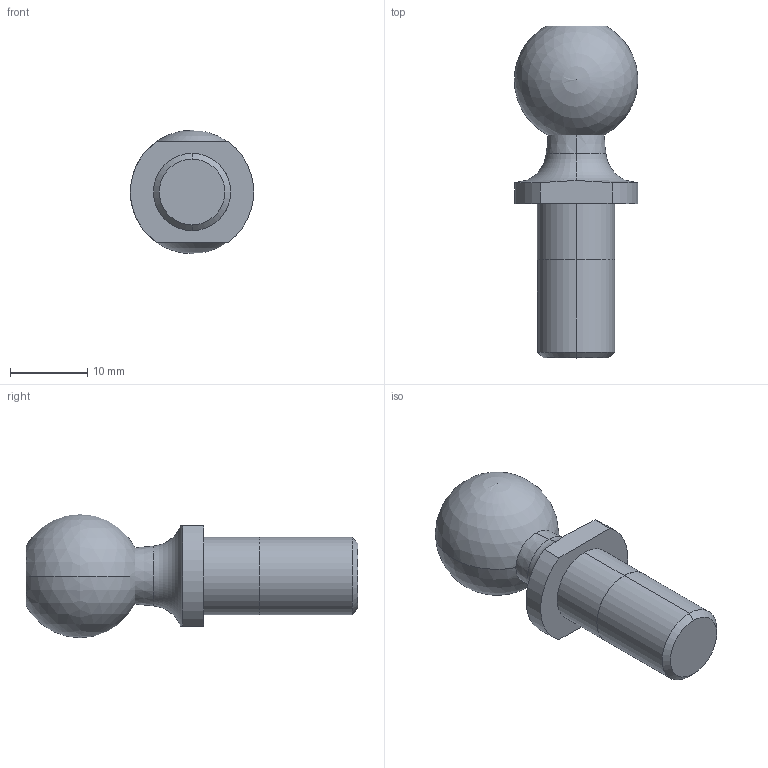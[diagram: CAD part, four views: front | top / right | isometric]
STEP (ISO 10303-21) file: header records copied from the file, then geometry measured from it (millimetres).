
FILE_DESCRIPTION (( 'STEP AP203' ), '1' );
FILE_NAME ('Default.step', '2014-02-03T10:40:23', ( 'User' ), ( '' ), 'SwSTEP 2.0', 'SolidWorks 2009', '' );
FILE_SCHEMA (( 'CONFIG_CONTROL_DESIGN' ));
Length unit declared in the file: millimetre
Products named in the file (1): Default
Bounding box: 15.98 x 43 x 16 mm (x, y, z)
Volume: 4550.1 mm3; surface area: 1935.9 mm2
Topology: 1 solids, 1 shells, 20 faces, 49 edges, 31 vertices
Faces by surface type: cylinder 6, plane 6, cone 4, sphere 2, torus 2
Entity records: 671 total; most frequent: CARTESIAN_POINT 133, DIRECTION 108, ORIENTED_EDGE 88, AXIS2_PLACEMENT_3D 47, EDGE_CURVE 44, VERTEX_POINT 28, CIRCLE 26, EDGE_LOOP 22
